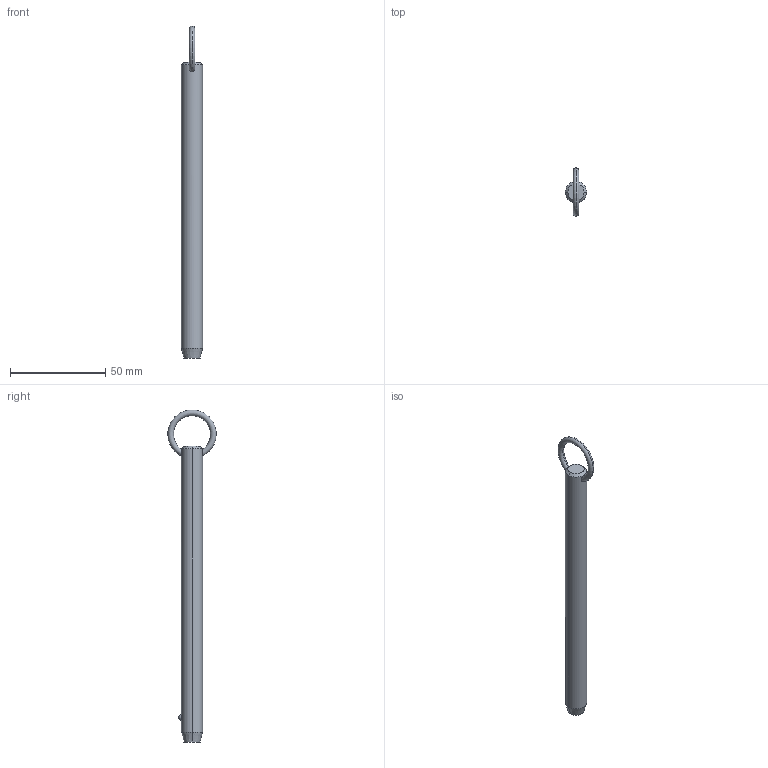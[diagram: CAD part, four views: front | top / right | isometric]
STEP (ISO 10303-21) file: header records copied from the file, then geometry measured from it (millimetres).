
FILE_DESCRIPTION (( 'STEP AP203' ), '1' );
FILE_NAME ('P1250.050-530.step', '2019-07-29T20:39:16', ( '' ), ( '' ), 'SwSTEP 2.0', 'SolidWorks 2017', '' );
FILE_SCHEMA (( 'CONFIG_CONTROL_DESIGN' ));
Length unit declared in the file: millimetre
Products named in the file (1): P1250.050-530
Bounding box: 11.1 x 25.32 x 174.15 mm (x, y, z)
Volume: 15301.3 mm3; surface area: 6064.7 mm2
Topology: 1 solids, 1 shells, 12 faces, 28 edges, 17 vertices
Faces by surface type: cone 4, torus 2, sphere 2, cylinder 2, plane 2
Entity records: 523 total; most frequent: CARTESIAN_POINT 190, DIRECTION 56, ORIENTED_EDGE 48, AXIS2_PLACEMENT_3D 25, EDGE_CURVE 24, EDGE_LOOP 15, VERTEX_POINT 15, FACE_OUTER_BOUND 12
